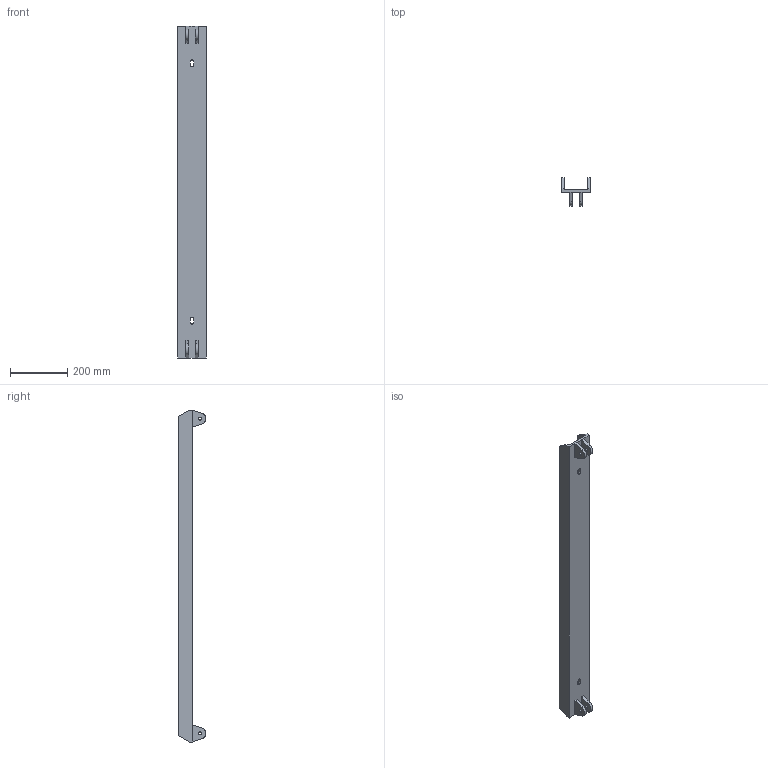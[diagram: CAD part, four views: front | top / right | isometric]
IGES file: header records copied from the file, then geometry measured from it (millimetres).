
Start section: File produced by SOLID-CONCEP (Trim Surfaces - Entity 144)
Global section: file name: 51.igs; native system: SOLID-CONCEPT V.5.xx; preprocessor: SOLID-CONCEPT-IGES-OUT v2.00; date: 100220.133116; units: millimetre
Bounding box: 100 x 96.97 x 1160 mm (x, y, z)
Surface area: 457472.3 mm2 (no closed solid volume)
Topology: 0 solids, 0 shells, 48 faces, 412 edges, 404 vertices
Faces by surface type: bspline 34, revolution 14
